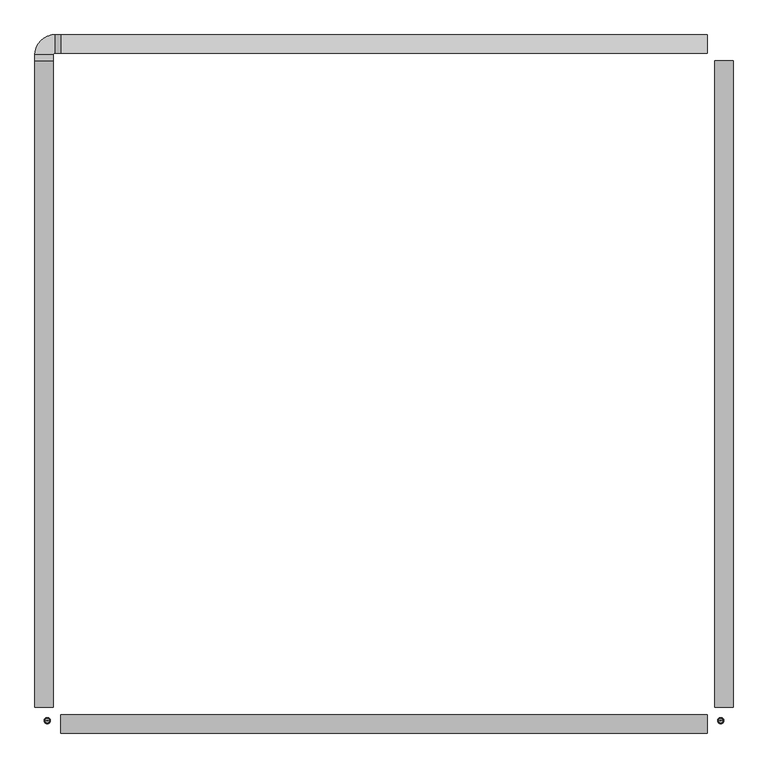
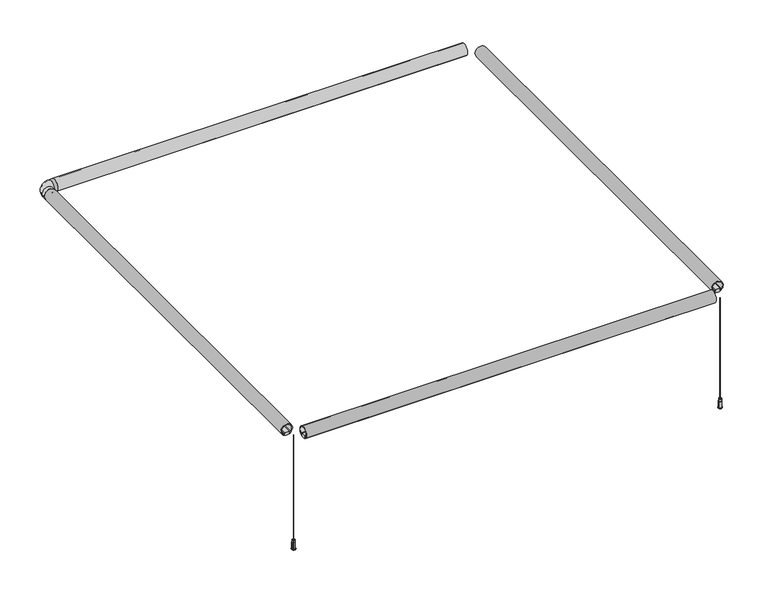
"""IFC4 building model written with IfcOpenShell, lengths in millimetres: light fixture geometry, ARTEMIDE-AoL-StandAlone-SquareRectangular_Suspended : StandALone_Suspended_SquareRectangular-1911x1911mm 14020lm 3000K."""

from ifc_helpers import new_model, si_unit, point, frame, frame_2d, origin, origin_with_axes, place, context, project, spatial, polyline, circle_curve, ellipse_curve, trimmed, segment, composite_curve, outline, extrude, source, transform, mapped, element, save
from ifc_brep_helpers import plane_surface, cylinder_surface, revolved_surface, advanced_brep


def light_fixture_bbf9698c(model_context):
    return source(origin(), model_context, "Body", "SolidModel", [
        advanced_brep(
        [(13.25, 1700.5, 502.9333396), (36.75, 1700.5, 502.9333396), (36.75, 1700.5, 507.259212), (40.304087, 1700.5, 507.259212), (40.304087, 1700.5, 508.785971), (34.5062575, 1700.5, 508.785971), (34.5062575, 1700.5, 514.4273482), (15.4937425, 1700.5, 514.4273482), (15.4937425, 1700.5, 508.785971), (9.695913, 1700.5, 508.785971), (9.695913, 1700.5, 507.259212), (13.25, 1700.5, 507.259212), (70.5, 1757.75, 502.9333396), (70.5, 1757.75, 507.259212), (70.5, 1761.304087, 507.259212), (70.5, 1761.304087, 508.785971), (70.5, 1755.5062575, 508.785971), (70.5, 1755.5062575, 514.4273482), (70.5, 1736.4937425, 514.4273482), (70.5, 1736.4937425, 508.785971), (70.5, 1730.695913, 508.785971), (70.5, 1730.695913, 507.259212), (70.5, 1734.25, 507.259212), (70.5, 1734.25, 502.9333396), (13.25, 1716.0, 502.9333396), (36.75, 1716.0, 502.9333396), (36.75, 1716.0, 507.259212), (55.0, 1734.25, 507.259212), (55.0, 1730.695913, 507.259212), (40.304087, 1716.0, 507.259212), (40.304087, 1716.0, 508.785971), (55.0, 1730.695913, 508.785971), (55.0, 1736.4937425, 508.785971), (34.5062575, 1716.0, 508.785971), (34.5062575, 1716.0, 514.4273482), (55.0, 1736.4937425, 514.4273482), (55.0, 1755.5062575, 514.4273482), (15.4937425, 1716.0, 514.4273482), (15.4937425, 1716.0, 508.785971), (55.0, 1755.5062575, 508.785971), (55.0, 1761.304087, 508.785971), (9.695913, 1716.0, 508.785971), (9.695913, 1716.0, 507.259212), (55.0, 1761.304087, 507.259212), (55.0, 1757.75, 507.259212), (13.25, 1716.0, 507.259212), (55.0, 1734.25, 502.9333396), (55.0, 1757.75, 502.9333396)],
        [
            (0, 1, circle_curve(frame((25.0, 1700.5, 525.0), z_axis=(0.0, -1.0, 0.0), x_axis=(-1.0, 0.0, 0.0)), 25.0)),
            (1, 2),
            (2, 3),
            (3, 4),
            (4, 5),
            (5, 6),
            (6, 7),
            (7, 8),
            (8, 9),
            (9, 10),
            (10, 11),
            (11, 0),
            (12, 13),
            (13, 14),
            (14, 15),
            (15, 16),
            (16, 17),
            (17, 18),
            (18, 19),
            (19, 20),
            (20, 21),
            (21, 22),
            (22, 23),
            (23, 12, circle_curve(frame((70.5, 1746.0, 525.0), z_axis=(1.0, 0.0, 0.0), x_axis=(0.0, 1.0, 0.0)), 25.0)),
            (0, 24),
            (24, 25, circle_curve(frame((25.0, 1716.0, 525.0), z_axis=(0.0, -1.0, 0.0), x_axis=(-1.0, 0.0, 0.0)), 25.0)),
            (25, 1),
            (25, 26),
            (26, 2),
            (26, 27, circle_curve(frame((55.0, 1716.0, 507.259212), z_axis=(0.0, 0.0, -1.0), x_axis=(-1.0, 0.0, 0.0)), 18.25)),
            (27, 22),
            (21, 28),
            (28, 29, circle_curve(frame((55.0, 1716.0, 507.259212), z_axis=(0.0, 0.0, 1.0), x_axis=(-1.0, 0.0, 0.0)), 14.695913)),
            (29, 3),
            (29, 30),
            (30, 4),
            (30, 31, circle_curve(frame((55.0, 1716.0, 508.785971), z_axis=(0.0, 0.0, -1.0), x_axis=(-1.0, 0.0, 0.0)), 14.695913)),
            (31, 20),
            (19, 32),
            (32, 33, circle_curve(frame((55.0, 1716.0, 508.785971), z_axis=(0.0, 0.0, 1.0), x_axis=(-1.0, 0.0, 0.0)), 20.4937425)),
            (33, 5),
            (33, 34),
            (34, 6),
            (34, 35, circle_curve(frame((55.0, 1716.0, 514.4273482), z_axis=(0.0, 0.0, -1.0), x_axis=(-1.0, 0.0, 0.0)), 20.4937425)),
            (35, 18),
            (17, 36),
            (36, 37, circle_curve(frame((55.0, 1716.0, 514.4273482), z_axis=(0.0, 0.0, 1.0), x_axis=(-1.0, 0.0, 0.0)), 39.5062575)),
            (37, 7),
            (37, 38),
            (38, 8),
            (38, 39, circle_curve(frame((55.0, 1716.0, 508.785971), z_axis=(0.0, 0.0, -1.0), x_axis=(-1.0, 0.0, 0.0)), 39.5062575)),
            (39, 16),
            (15, 40),
            (40, 41, circle_curve(frame((55.0, 1716.0, 508.785971), z_axis=(0.0, 0.0, 1.0), x_axis=(-1.0, 0.0, 0.0)), 45.304087)),
            (41, 9),
            (41, 42),
            (42, 10),
            (42, 43, circle_curve(frame((55.0, 1716.0, 507.259212), z_axis=(0.0, 0.0, -1.0), x_axis=(-1.0, 0.0, 0.0)), 45.304087)),
            (43, 14),
            (13, 44),
            (44, 45, circle_curve(frame((55.0, 1716.0, 507.259212), z_axis=(0.0, 0.0, 1.0), x_axis=(-1.0, 0.0, 0.0)), 41.75)),
            (45, 11),
            (45, 24),
            (46, 25, circle_curve(frame((55.0, 1716.0, 502.9333396), z_axis=(0.0, 0.0, 1.0), x_axis=(-1.0, 0.0, 0.0)), 18.25)),
            (24, 47, circle_curve(frame((55.0, 1716.0, 502.9333396), z_axis=(0.0, 0.0, -1.0), x_axis=(-1.0, 0.0, 0.0)), 41.75)),
            (47, 46, circle_curve(frame((55.0, 1746.0, 525.0), z_axis=(-1.0, 0.0, 0.0), x_axis=(0.0, 1.0, 0.0)), 25.0)),
            (46, 27),
            (28, 31),
            (32, 35),
            (36, 39),
            (40, 43),
            (44, 47),
            (47, 12),
            (23, 46),
        ],
        [
            plane_surface(frame((25.0, 1700.5, 500.0), z_axis=(0.0, -1.0, 0.0), x_axis=(0.0, 0.0, 1.0))),
            plane_surface(frame((70.5, 1746.0, 500.0), z_axis=(1.0, 0.0, 0.0), x_axis=(0.0, 0.0, 1.0))),
            cylinder_surface(frame((25.0, 1700.5, 525.0), z_axis=(0.0, -1.0, 0.0), x_axis=(-1.0, 0.0, 0.0)), 25.0),
            plane_surface(frame((36.75, 1700.5, 502.9333396), z_axis=(1.0, 0.0, 0.0), x_axis=(0.0, 1.0, 0.0))),
            plane_surface(frame((36.75, 1700.5, 507.259212), z_axis=(0.0, 0.0, -1.0), x_axis=(0.0, 1.0, 0.0))),
            plane_surface(frame((40.304087, 1700.5, 507.259212), z_axis=(1.0, 0.0, 0.0), x_axis=(0.0, 1.0, 0.0))),
            plane_surface(frame((40.304087, 1700.5, 508.785971), z_axis=(0.0, 0.0, 1.0), x_axis=(0.0, 1.0, 0.0))),
            plane_surface(frame((34.5062575, 1700.5, 508.785971), z_axis=(1.0, 0.0, 0.0), x_axis=(0.0, 1.0, 0.0))),
            plane_surface(frame((34.5062575, 1700.5, 514.4273482), z_axis=(0.0, 0.0, 1.0), x_axis=(0.0, 1.0, 0.0))),
            plane_surface(frame((15.4937425, 1700.5, 514.4273482), z_axis=(-1.0, 0.0, 0.0), x_axis=(0.0, 1.0, 0.0))),
            plane_surface(frame((15.4937425, 1700.5, 508.785971), z_axis=(0.0, 0.0, 1.0), x_axis=(0.0, 1.0, 0.0))),
            plane_surface(frame((9.695913, 1700.5, 508.785971), z_axis=(-1.0, 0.0, 0.0), x_axis=(0.0, 1.0, 0.0))),
            plane_surface(frame((9.695913, 1700.5, 507.259212), z_axis=(0.0, 0.0, -1.0), x_axis=(0.0, 1.0, 0.0))),
            plane_surface(frame((13.25, 1700.5, 507.259212), z_axis=(-1.0, 0.0, 0.0), x_axis=(0.0, 1.0, 0.0))),
            revolved_surface(trimmed(ellipse_curve(frame((25.0, 1716.0, 525.0), z_axis=(0.0, -1.0, 0.0), x_axis=(-1.0, 0.0, 0.0)), 25.0, 25.0), [point((13.25, 1716.0, 502.9333396))], [point((36.75, 1716.0, 502.9333396))], True, "CARTESIAN"), (55.0, 1716.0, 500.0), (0.0, 0.0, -1.0)),
            revolved_surface(polyline([(36.75, 1716.0, 502.9333396), (36.75, 1716.0, 507.259212)]), (55.0, 1716.0, 500.0), (0.0, 0.0, -1.0)),
            revolved_surface(polyline([(40.304087, 1716.0, 507.259212), (40.304087, 1716.0, 508.785971)]), (55.0, 1716.0, 500.0), (0.0, 0.0, -1.0)),
            revolved_surface(polyline([(34.506257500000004, 1716.0, 508.785971), (34.506257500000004, 1716.0, 514.4273482)]), (55.0, 1716.0, 500.0), (0.0, 0.0, -1.0)),
            cylinder_surface(frame((55.0, 1716.0, 500.0), z_axis=(0.0, 0.0, -1.0), x_axis=(-1.0, 0.0, 0.0)), 39.5062575),
            cylinder_surface(frame((55.0, 1716.0, 500.0), z_axis=(0.0, 0.0, -1.0), x_axis=(-1.0, 0.0, 0.0)), 45.304087),
            cylinder_surface(frame((55.0, 1716.0, 500.0), z_axis=(0.0, 0.0, -1.0), x_axis=(-1.0, 0.0, 0.0)), 41.75),
            cylinder_surface(frame((55.0, 1746.0, 525.0), z_axis=(-1.0, 0.0, 0.0), x_axis=(0.0, 1.0, 0.0)), 25.0),
            plane_surface(frame((55.0, 1734.25, 502.9333396), z_axis=(0.0, -1.0, 0.0), x_axis=(1.0, 0.0, 0.0))),
            plane_surface(frame((55.0, 1730.695913, 507.259212), z_axis=(0.0, -1.0, 0.0), x_axis=(1.0, 0.0, 0.0))),
            plane_surface(frame((55.0, 1736.4937425, 508.785971), z_axis=(0.0, -1.0, 0.0), x_axis=(1.0, 0.0, 0.0))),
            plane_surface(frame((55.0, 1755.5062575, 514.4273482), z_axis=(0.0, 1.0, 0.0), x_axis=(1.0, 0.0, 0.0))),
            plane_surface(frame((55.0, 1761.304087, 508.785971), z_axis=(0.0, 1.0, 0.0), x_axis=(1.0, 0.0, 0.0))),
            plane_surface(frame((55.0, 1757.75, 507.259212), z_axis=(0.0, 1.0, 0.0), x_axis=(1.0, 0.0, 0.0))),
        ],
        [
            (0, [[1, 2, 3, 4, 5, 6, 7, 8, 9, 10, 11, 12]]),
            (1, [[13, 14, 15, 16, 17, 18, 19, 20, 21, 22, 23, 24]]),
            (2, [[-1, 25, 26, 27]]),
            (3, [[-2, -27, 28, 29]]),
            (4, [[-3, -29, 30, 31, -22, 32, 33, 34]]),
            (5, [[-4, -34, 35, 36]]),
            (6, [[-5, -36, 37, 38, -20, 39, 40, 41]]),
            (7, [[-6, -41, 42, 43]]),
            (8, [[-7, -43, 44, 45, -18, 46, 47, 48]]),
            (9, [[-8, -48, 49, 50]]),
            (10, [[-9, -50, 51, 52, -16, 53, 54, 55]]),
            (11, [[-10, -55, 56, 57]]),
            (12, [[-11, -57, 58, 59, -14, 60, 61, 62]]),
            (13, [[-12, -62, 63, -25]]),
            (14, [[64, -26, 65, 66]]),
            (15, [[-30, -28, -64, 67]]),
            (16, [[-37, -35, -33, 68]]),
            (17, [[-44, -42, -40, 69]]),
            (18, [[-51, -49, -47, 70]]),
            (19, [[-58, -56, -54, 71]]),
            (20, [[-65, -63, -61, 72]]),
            (21, [[-66, 73, -24, 74]]),
            (22, [[-67, -74, -23, -31]]),
            (23, [[-68, -32, -21, -38]]),
            (24, [[-69, -39, -19, -45]]),
            (25, [[-70, -46, -17, -52]]),
            (26, [[-71, -53, -15, -59]]),
            (27, [[-72, -60, -13, -73]]),
        ],
    ),
        advanced_brep(
        [(36.75, 1700.5, 502.9333396), (13.25, 1700.5, 502.9333396), (13.25, 1700.5, 507.259212), (11.332246, 1700.5, 507.259212), (11.332246, 1700.5, 505.8288843), (9.382246, 1700.5, 507.2440748), (9.382246, 1700.5, 509.244074), (12.332246, 1700.5, 509.244074), (12.332246, 1700.5, 510.744074), (7.7220206, 1700.5, 510.744074), (42.2779794, 1700.5, 510.744074), (37.667754, 1700.5, 510.744074), (37.667754, 1700.5, 509.244074), (40.617754, 1700.5, 509.244074), (40.617754, 1700.5, 507.2440748), (38.667754, 1700.5, 505.8288843), (38.667754, 1700.5, 507.259212), (36.75, 1700.5, 507.259212), (70.5, 1734.25, 502.9333396), (70.5, 1734.25, 507.259212), (70.5, 1732.332246, 507.259212), (70.5, 1732.332246, 505.8288843), (70.5, 1730.382246, 507.2440748), (70.5, 1730.382246, 509.244074), (70.5, 1733.332246, 509.244074), (70.5, 1733.332246, 510.744074), (70.5, 1728.7220206, 510.744074), (70.5, 1763.2779794, 510.744074), (70.5, 1758.667754, 510.744074), (70.5, 1758.667754, 509.244074), (70.5, 1761.617754, 509.244074), (70.5, 1761.617754, 507.2440748), (70.5, 1759.667754, 505.8288843), (70.5, 1759.667754, 507.259212), (70.5, 1757.75, 507.259212), (70.5, 1757.75, 502.9333396), (36.75, 1716.0, 502.9333396), (13.25, 1716.0, 502.9333396), (13.25, 1716.0, 507.259212), (55.0, 1757.75, 507.259212), (55.0, 1759.667754, 507.259212), (11.332246, 1716.0, 507.259212), (11.332246, 1716.0, 505.8288843), (9.382246, 1716.0, 507.2440748), (9.382246, 1716.0, 509.244074), (55.0, 1761.617754, 509.244074), (55.0, 1758.667754, 509.244074), (12.332246, 1716.0, 509.244074), (12.332246, 1716.0, 510.744074), (55.0, 1758.667754, 510.744074), (55.0, 1763.2779794, 510.744074), (7.7220206, 1716.0, 510.744074), (42.2779794, 1716.0, 510.744074), (55.0, 1728.7220206, 510.744074), (55.0, 1733.332246, 510.744074), (37.667754, 1716.0, 510.744074), (37.667754, 1716.0, 509.244074), (55.0, 1733.332246, 509.244074), (55.0, 1730.382246, 509.244074), (40.617754, 1716.0, 509.244074), (40.617754, 1716.0, 507.2440748), (38.667754, 1716.0, 505.8288843), (38.667754, 1716.0, 507.259212), (55.0, 1732.332246, 507.259212), (55.0, 1734.25, 507.259212), (36.75, 1716.0, 507.259212), (55.0, 1757.75, 502.9333396), (55.0, 1734.25, 502.9333396), (55.0, 1759.667754, 505.8288843), (55.0, 1761.617754, 507.2440748), (55.0, 1730.382246, 507.2440748), (55.0, 1732.332246, 505.8288843)],
        [
            (0, 1, circle_curve(frame((25.0, 1700.5, 525.0), z_axis=(0.0, -1.0, 0.0), x_axis=(-1.0, 0.0, 0.0)), 25.0)),
            (1, 2),
            (2, 3),
            (3, 4),
            (4, 5),
            (5, 6),
            (6, 7),
            (7, 8),
            (8, 9),
            (9, 10, circle_curve(frame((25.0, 1700.5, 525.0), z_axis=(0.0, 1.0, 0.0), x_axis=(-1.0, 0.0, 0.0)), 22.4)),
            (10, 11),
            (11, 12),
            (12, 13),
            (13, 14),
            (14, 15),
            (15, 16),
            (16, 17),
            (17, 0),
            (18, 19),
            (19, 20),
            (20, 21),
            (21, 22),
            (22, 23),
            (23, 24),
            (24, 25),
            (25, 26),
            (26, 27, circle_curve(frame((70.5, 1746.0, 525.0), z_axis=(-1.0, 0.0, 0.0), x_axis=(0.0, 1.0, 0.0)), 22.4)),
            (27, 28),
            (28, 29),
            (29, 30),
            (30, 31),
            (31, 32),
            (32, 33),
            (33, 34),
            (34, 35),
            (35, 18, circle_curve(frame((70.5, 1746.0, 525.0), z_axis=(1.0, 0.0, 0.0), x_axis=(0.0, 1.0, 0.0)), 25.0)),
            (0, 36),
            (36, 37, circle_curve(frame((25.0, 1716.0, 525.0), z_axis=(0.0, -1.0, 0.0), x_axis=(-1.0, 0.0, 0.0)), 25.0)),
            (37, 1),
            (37, 38),
            (38, 2),
            (38, 39, circle_curve(frame((55.0, 1716.0, 507.259212), z_axis=(0.0, 0.0, -1.0), x_axis=(-1.0, 0.0, 0.0)), 41.75)),
            (39, 34),
            (33, 40),
            (40, 41, circle_curve(frame((55.0, 1716.0, 507.259212), z_axis=(0.0, 0.0, 1.0), x_axis=(-1.0, 0.0, 0.0)), 43.667754)),
            (41, 3),
            (41, 42),
            (42, 4),
            (42, 43),
            (43, 5),
            (43, 44),
            (44, 6),
            (44, 45, circle_curve(frame((55.0, 1716.0, 509.244074), z_axis=(0.0, 0.0, -1.0), x_axis=(-1.0, 0.0, 0.0)), 45.617754)),
            (45, 30),
            (29, 46),
            (46, 47, circle_curve(frame((55.0, 1716.0, 509.244074), z_axis=(0.0, 0.0, 1.0), x_axis=(-1.0, 0.0, 0.0)), 42.667754)),
            (47, 7),
            (47, 48),
            (48, 8),
            (48, 49, circle_curve(frame((55.0, 1716.0, 510.744074), z_axis=(0.0, 0.0, -1.0), x_axis=(-1.0, 0.0, 0.0)), 42.667754)),
            (49, 28),
            (27, 50),
            (50, 51, circle_curve(frame((55.0, 1716.0, 510.744074), z_axis=(0.0, 0.0, 1.0), x_axis=(-1.0, 0.0, 0.0)), 47.2779794)),
            (51, 9),
            (51, 52, circle_curve(frame((25.0, 1716.0, 525.0), z_axis=(0.0, 1.0, 0.0), x_axis=(-1.0, 0.0, 0.0)), 22.4)),
            (52, 10),
            (52, 53, circle_curve(frame((55.0, 1716.0, 510.744074), z_axis=(0.0, 0.0, -1.0), x_axis=(-1.0, 0.0, 0.0)), 12.7220206)),
            (53, 26),
            (25, 54),
            (54, 55, circle_curve(frame((55.0, 1716.0, 510.744074), z_axis=(0.0, 0.0, 1.0), x_axis=(-1.0, 0.0, 0.0)), 17.332246)),
            (55, 11),
            (55, 56),
            (56, 12),
            (56, 57, circle_curve(frame((55.0, 1716.0, 509.244074), z_axis=(0.0, 0.0, -1.0), x_axis=(-1.0, 0.0, 0.0)), 17.332246)),
            (57, 24),
            (23, 58),
            (58, 59, circle_curve(frame((55.0, 1716.0, 509.244074), z_axis=(0.0, 0.0, 1.0), x_axis=(-1.0, 0.0, 0.0)), 14.382246)),
            (59, 13),
            (59, 60),
            (60, 14),
            (60, 61),
            (61, 15),
            (61, 62),
            (62, 16),
            (62, 63, circle_curve(frame((55.0, 1716.0, 507.259212), z_axis=(0.0, 0.0, -1.0), x_axis=(-1.0, 0.0, 0.0)), 16.332246)),
            (63, 20),
            (19, 64),
            (64, 65, circle_curve(frame((55.0, 1716.0, 507.259212), z_axis=(0.0, 0.0, 1.0), x_axis=(-1.0, 0.0, 0.0)), 18.25)),
            (65, 17),
            (65, 36),
            (66, 37, circle_curve(frame((55.0, 1716.0, 502.9333396), z_axis=(0.0, 0.0, 1.0), x_axis=(-1.0, 0.0, 0.0)), 41.75)),
            (36, 67, circle_curve(frame((55.0, 1716.0, 502.9333396), z_axis=(0.0, 0.0, -1.0), x_axis=(-1.0, 0.0, 0.0)), 18.25)),
            (67, 66, circle_curve(frame((55.0, 1746.0, 525.0), z_axis=(-1.0, 0.0, 0.0), x_axis=(0.0, 1.0, 0.0)), 25.0)),
            (66, 39),
            (68, 42, circle_curve(frame((55.0, 1716.0, 505.8288843), z_axis=(0.0, 0.0, 1.0), x_axis=(-1.0, 0.0, 0.0)), 43.667754)),
            (40, 68),
            (69, 43, circle_curve(frame((55.0, 1716.0, 507.2440748), z_axis=(0.0, 0.0, 1.0), x_axis=(-1.0, 0.0, 0.0)), 45.617754)),
            (68, 69),
            (69, 45),
            (46, 49),
            (50, 53, circle_curve(frame((55.0, 1746.0, 525.0), z_axis=(1.0, 0.0, 0.0), x_axis=(0.0, 1.0, 0.0)), 22.4)),
            (54, 57),
            (70, 60, circle_curve(frame((55.0, 1716.0, 507.2440748), z_axis=(0.0, 0.0, 1.0), x_axis=(-1.0, 0.0, 0.0)), 14.382246)),
            (58, 70),
            (71, 61, circle_curve(frame((55.0, 1716.0, 505.8288843), z_axis=(0.0, 0.0, 1.0), x_axis=(-1.0, 0.0, 0.0)), 16.332246)),
            (70, 71),
            (71, 63),
            (64, 67),
            (67, 18),
            (35, 66),
            (32, 68),
            (31, 69),
            (22, 70),
            (21, 71),
        ],
        [
            plane_surface(frame((25.0, 1700.5, 500.0), z_axis=(0.0, -1.0, 0.0), x_axis=(0.0, 0.0, 1.0))),
            plane_surface(frame((70.5, 1746.0, 500.0), z_axis=(1.0, 0.0, 0.0), x_axis=(0.0, 0.0, 1.0))),
            cylinder_surface(frame((25.0, 1700.5, 525.0), z_axis=(0.0, -1.0, 0.0), x_axis=(-1.0, 0.0, 0.0)), 25.0),
            plane_surface(frame((13.25, 1700.5, 502.9333396), z_axis=(1.0, 0.0, 0.0), x_axis=(0.0, 1.0, 0.0))),
            plane_surface(frame((13.25, 1700.5, 507.259212), z_axis=(0.0, 0.0, 1.0), x_axis=(0.0, 1.0, 0.0))),
            plane_surface(frame((11.332246, 1700.5, 507.259212), z_axis=(-1.0, 0.0, 0.0), x_axis=(0.0, 1.0, 0.0))),
            plane_surface(frame((11.332246, 1700.5, 505.8288843), z_axis=(0.587359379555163, 0.0, 0.8093262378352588), x_axis=(0.0, 1.0, 0.0))),
            plane_surface(frame((9.382246, 1700.5, 507.2440748), z_axis=(1.0, 0.0, 0.0), x_axis=(0.0, 1.0, 0.0))),
            plane_surface(frame((9.382246, 1700.5, 509.244074), z_axis=(0.0, 0.0, -1.0), x_axis=(0.0, 1.0, 0.0))),
            plane_surface(frame((12.332246, 1700.5, 509.244074), z_axis=(1.0, 0.0, 0.0), x_axis=(0.0, 1.0, 0.0))),
            plane_surface(frame((12.332246, 1700.5, 510.744074), z_axis=(0.0, 0.0, 1.0), x_axis=(0.0, 1.0, 0.0))),
            revolved_surface(polyline([(2.6000000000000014, 1716.0, 525.0), (2.6000000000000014, 1700.5, 525.0)]), (25.0, 1700.5, 525.0), (0.0, 1.0, 0.0)),
            plane_surface(frame((42.2779794, 1700.5, 510.744074), z_axis=(0.0, 0.0, 1.0), x_axis=(0.0, 1.0, 0.0))),
            plane_surface(frame((37.667754, 1700.5, 510.744074), z_axis=(-1.0, 0.0, 0.0), x_axis=(0.0, 1.0, 0.0))),
            plane_surface(frame((37.667754, 1700.5, 509.244074), z_axis=(0.0, 0.0, -1.0), x_axis=(0.0, 1.0, 0.0))),
            plane_surface(frame((40.617754, 1700.5, 509.244074), z_axis=(-1.0, 0.0, 0.0), x_axis=(0.0, 1.0, 0.0))),
            plane_surface(frame((40.617754, 1700.5, 507.2440748), z_axis=(-0.5873593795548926, 0.0, 0.8093262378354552), x_axis=(0.0, 1.0, 0.0))),
            plane_surface(frame((38.667754, 1700.5, 505.8288843), z_axis=(1.0, 0.0, 0.0), x_axis=(0.0, 1.0, 0.0))),
            plane_surface(frame((38.667754, 1700.5, 507.259212), z_axis=(0.0, 0.0, 1.0), x_axis=(0.0, 1.0, 0.0))),
            plane_surface(frame((36.75, 1700.5, 507.259212), z_axis=(-1.0, 0.0, 0.0), x_axis=(0.0, 1.0, 0.0))),
            revolved_surface(trimmed(ellipse_curve(frame((25.0, 1716.0, 525.0), z_axis=(0.0, -1.0, 0.0), x_axis=(-1.0, 0.0, 0.0)), 25.0, 25.0), [point((36.75, 1716.0, 502.9333396))], [point((13.25, 1716.0, 502.9333396))], True, "CARTESIAN"), (55.0, 1716.0, 500.0), (0.0, 0.0, -1.0)),
            revolved_surface(polyline([(13.25, 1716.0, 502.9333396), (13.25, 1716.0, 507.259212)]), (55.0, 1716.0, 500.0), (0.0, 0.0, -1.0)),
            cylinder_surface(frame((55.0, 1716.0, 500.0), z_axis=(0.0, 0.0, -1.0), x_axis=(-1.0, 0.0, 0.0)), 43.667754),
            revolved_surface(polyline([(11.332246, 1716.0, 505.8288843), (9.382246, 1716.0, 507.2440748)]), (55.0, 1716.0, 500.0), (0.0, 0.0, -1.0)),
            revolved_surface(polyline([(9.382246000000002, 1716.0, 507.2440748), (9.382246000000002, 1716.0, 509.244074)]), (55.0, 1716.0, 500.0), (0.0, 0.0, -1.0)),
            revolved_surface(polyline([(12.332245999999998, 1716.0, 509.244074), (12.332245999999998, 1716.0, 510.744074)]), (55.0, 1716.0, 500.0), (0.0, 0.0, -1.0)),
            revolved_surface(trimmed(ellipse_curve(frame((25.0, 1716.0, 525.0), z_axis=(0.0, 1.0, 0.0), x_axis=(-1.0, 0.0, 0.0)), 22.4, 22.4), [point((7.7220206, 1716.0, 510.744074))], [point((42.2779794, 1716.0, 510.744074))], True, "CARTESIAN"), (55.0, 1716.0, 500.0), (0.0, 0.0, -1.0)),
            cylinder_surface(frame((55.0, 1716.0, 500.0), z_axis=(0.0, 0.0, -1.0), x_axis=(-1.0, 0.0, 0.0)), 17.332246),
            cylinder_surface(frame((55.0, 1716.0, 500.0), z_axis=(0.0, 0.0, -1.0), x_axis=(-1.0, 0.0, 0.0)), 14.382246),
            revolved_surface(polyline([(40.617754, 1716.0, 507.2440748), (38.667754, 1716.0, 505.8288843)]), (55.0, 1716.0, 500.0), (0.0, 0.0, -1.0)),
            revolved_surface(polyline([(38.667754, 1716.0, 505.8288843), (38.667754, 1716.0, 507.259212)]), (55.0, 1716.0, 500.0), (0.0, 0.0, -1.0)),
            cylinder_surface(frame((55.0, 1716.0, 500.0), z_axis=(0.0, 0.0, -1.0), x_axis=(-1.0, 0.0, 0.0)), 18.25),
            cylinder_surface(frame((55.0, 1746.0, 525.0), z_axis=(-1.0, 0.0, 0.0), x_axis=(0.0, 1.0, 0.0)), 25.0),
            plane_surface(frame((55.0, 1757.75, 502.9333396), z_axis=(0.0, -1.0, 0.0), x_axis=(1.0, 0.0, 0.0))),
            plane_surface(frame((55.0, 1759.667754, 507.259212), z_axis=(0.0, 1.0, 0.0), x_axis=(1.0, 0.0, 0.0))),
            plane_surface(frame((55.0, 1759.667754, 505.8288843), z_axis=(0.0, -0.5873593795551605, 0.8093262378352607), x_axis=(1.0, 0.0, 0.0))),
            plane_surface(frame((55.0, 1761.617754, 507.2440748), z_axis=(0.0, -1.0, 0.0), x_axis=(1.0, 0.0, 0.0))),
            plane_surface(frame((55.0, 1758.667754, 509.244074), z_axis=(0.0, -1.0, 0.0), x_axis=(1.0, 0.0, 0.0))),
            revolved_surface(polyline([(70.5, 1768.4, 525.0), (55.0, 1768.4, 525.0)]), (55.0, 1746.0, 525.0), (1.0, 0.0, 0.0)),
            plane_surface(frame((55.0, 1733.332246, 510.744074), z_axis=(0.0, 1.0, 0.0), x_axis=(1.0, 0.0, 0.0))),
            plane_surface(frame((55.0, 1730.382246, 509.244074), z_axis=(0.0, 1.0, 0.0), x_axis=(1.0, 0.0, 0.0))),
            plane_surface(frame((55.0, 1730.382246, 507.2440748), z_axis=(0.0, 0.5873593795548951, 0.8093262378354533), x_axis=(1.0, 0.0, 0.0))),
            plane_surface(frame((55.0, 1732.332246, 505.8288843), z_axis=(0.0, -1.0, 0.0), x_axis=(1.0, 0.0, 0.0))),
            plane_surface(frame((55.0, 1734.25, 507.259212), z_axis=(0.0, 1.0, 0.0), x_axis=(1.0, 0.0, 0.0))),
        ],
        [
            (0, [[1, 2, 3, 4, 5, 6, 7, 8, 9, 10, 11, 12, 13, 14, 15, 16, 17, 18]]),
            (1, [[19, 20, 21, 22, 23, 24, 25, 26, 27, 28, 29, 30, 31, 32, 33, 34, 35, 36]]),
            (2, [[-1, 37, 38, 39]]),
            (3, [[-2, -39, 40, 41]]),
            (4, [[-3, -41, 42, 43, -34, 44, 45, 46]]),
            (5, [[-4, -46, 47, 48]]),
            (6, [[-5, -48, 49, 50]]),
            (7, [[-6, -50, 51, 52]]),
            (8, [[-7, -52, 53, 54, -30, 55, 56, 57]]),
            (9, [[-8, -57, 58, 59]]),
            (10, [[-9, -59, 60, 61, -28, 62, 63, 64]]),
            (11, [[-10, -64, 65, 66]]),
            (12, [[-11, -66, 67, 68, -26, 69, 70, 71]]),
            (13, [[-12, -71, 72, 73]]),
            (14, [[-13, -73, 74, 75, -24, 76, 77, 78]]),
            (15, [[-14, -78, 79, 80]]),
            (16, [[-15, -80, 81, 82]]),
            (17, [[-16, -82, 83, 84]]),
            (18, [[-17, -84, 85, 86, -20, 87, 88, 89]]),
            (19, [[-18, -89, 90, -37]]),
            (20, [[91, -38, 92, 93]]),
            (21, [[-42, -40, -91, 94]]),
            (22, [[95, -47, -45, 96]]),
            (23, [[97, -49, -95, 98]]),
            (24, [[-53, -51, -97, 99]]),
            (25, [[-60, -58, -56, 100]]),
            (26, [[-67, -65, -63, 101]]),
            (27, [[-74, -72, -70, 102]]),
            (28, [[103, -79, -77, 104]]),
            (29, [[105, -81, -103, 106]]),
            (30, [[-85, -83, -105, 107]]),
            (31, [[-92, -90, -88, 108]]),
            (32, [[-93, 109, -36, 110]]),
            (33, [[-94, -110, -35, -43]]),
            (34, [[-96, -44, -33, 111]]),
            (35, [[-98, -111, -32, 112]]),
            (36, [[-99, -112, -31, -54]]),
            (37, [[-100, -55, -29, -61]]),
            (38, [[-101, -62, -27, -68]]),
            (39, [[-102, -69, -25, -75]]),
            (40, [[-104, -76, -23, 113]]),
            (41, [[-106, -113, -22, 114]]),
            (42, [[-107, -114, -21, -86]]),
            (43, [[-108, -87, -19, -109]]),
        ],
    ),
        extrude(outline(composite_curve([segment(polyline([(1757.75, 502.9333396), (1757.75, 507.259212), (1759.667754, 507.259212), (1759.667754, 505.8288843), (1761.617754, 507.2440748), (1761.617754, 509.244074), (1758.667754, 509.244074), (1758.667754, 510.744074), (1763.2779794, 510.744074)]), True, "CONTINUOUS"), segment(trimmed(circle_curve(frame_2d((1746.0, 525.0)), 22.4), [point((1763.2779794, 510.744074))], [point((1728.7220206, 510.744074))], True, "CARTESIAN"), True, "CONTINUOUS"), segment(polyline([(1728.7220206, 510.744074), (1733.332246, 510.744074), (1733.332246, 509.244074), (1730.382246, 509.244074), (1730.382246, 507.2440748), (1732.332246, 505.8288843), (1732.332246, 507.259212), (1734.25, 507.259212), (1734.25, 502.9333396)]), True, "CONTINUOUS"), segment(trimmed(circle_curve(frame_2d((1746.0, 525.0)), 25.0), [point((1734.25, 502.9333396))], [point((1757.75, 502.9333396))], False, "CARTESIAN"), True, "CONTINUOUS")], self_intersect=False)), frame((70.5, 0.0, 0.0), z_axis=(1.0, 0.0, 0.0), x_axis=(0.0, 1.0, 0.0)), (0.0, 0.0, 1.0), 1770.0032014),
        extrude(outline(composite_curve([segment(polyline([(1734.25, 502.9333396), (1734.25, 507.259212), (1730.695913, 507.259212), (1730.695913, 508.785971), (1736.4937425, 508.785971), (1736.4937425, 514.4273482), (1755.5062575, 514.4273482), (1755.5062575, 508.785971), (1761.304087, 508.785971), (1761.304087, 507.259212), (1757.75, 507.259212), (1757.75, 502.9333396)]), True, "CONTINUOUS"), segment(trimmed(circle_curve(frame_2d((1746.0, 525.0)), 25.0), [point((1757.75, 502.9333396))], [point((1734.25, 502.9333396))], False, "CARTESIAN"), True, "CONTINUOUS")], self_intersect=False)), frame((70.5, 0.0, 0.0), z_axis=(1.0, 0.0, 0.0), x_axis=(0.0, 1.0, 0.0)), (0.0, 0.0, 1.0), 1770.0032014),
        extrude(outline(composite_curve([segment(polyline([(502.9333396, 13.25), (507.259212, 13.25), (507.259212, 11.332246), (505.8288843, 11.332246), (507.2440748, 9.382246), (509.244074, 9.382246), (509.244074, 12.332246), (510.744074, 12.332246), (510.744074, 7.7220206)]), True, "CONTINUOUS"), segment(trimmed(circle_curve(frame_2d((525.0, 25.0)), 22.4), [point((510.744074, 7.7220206))], [point((510.744074, 42.2779794))], True, "CARTESIAN"), True, "CONTINUOUS"), segment(polyline([(510.744074, 42.2779794), (510.744074, 37.667754), (509.244074, 37.667754), (509.244074, 40.617754), (507.2440748, 40.617754), (505.8288843, 38.667754), (507.259212, 38.667754), (507.259212, 36.75), (502.9333396, 36.75)]), True, "CONTINUOUS"), segment(trimmed(circle_curve(frame_2d((525.0, 25.0)), 25.0), [point((502.9333396, 36.75))], [point((502.9333396, 13.25))], False, "CARTESIAN"), True, "CONTINUOUS")], self_intersect=False)), frame((0.0, -69.5, 0.0), z_axis=(0.0, 1.0, 0.0), x_axis=(0.0, 0.0, 1.0)), (0.0, 0.0, 1.0), 1770.0),
        extrude(outline(composite_curve([segment(polyline([(502.9333396, 36.75), (507.259212, 36.75), (507.259212, 40.304087), (508.785971, 40.304087), (508.785971, 34.5062575), (514.4273482, 34.5062575), (514.4273482, 15.4937425), (508.785971, 15.4937425), (508.785971, 9.695913), (507.259212, 9.695913), (507.259212, 13.25), (502.9333396, 13.25)]), True, "CONTINUOUS"), segment(trimmed(circle_curve(frame_2d((525.0, 25.0)), 25.0), [point((502.9333396, 13.25))], [point((502.9333396, 36.75))], False, "CARTESIAN"), True, "CONTINUOUS")], self_intersect=False)), frame((0.0, -69.5, 0.0), z_axis=(0.0, 1.0, 0.0), x_axis=(0.0, 0.0, 1.0)), (0.0, 0.0, 1.0), 1770.0),
        extrude(outline(composite_curve([segment(polyline([(502.9333396, 1874.2532014), (507.259212, 1874.2532014), (507.259212, 1872.3354474), (505.8288843, 1872.3354474), (507.2440748, 1870.3854474), (509.244074, 1870.3854474), (509.244074, 1873.3354474), (510.744074, 1873.3354474), (510.744074, 1868.725222)]), True, "CONTINUOUS"), segment(trimmed(circle_curve(frame_2d((525.0, 1886.0032014)), 22.4), [point((510.744074, 1868.725222))], [point((510.744074, 1903.2811808))], True, "CARTESIAN"), True, "CONTINUOUS"), segment(polyline([(510.744074, 1903.2811808), (510.744074, 1898.6709554), (509.244074, 1898.6709554), (509.244074, 1901.6209554), (507.2440748, 1901.6209554), (505.8288843, 1899.6709554), (507.259212, 1899.6709554), (507.259212, 1897.7532014), (502.9333396, 1897.7532014)]), True, "CONTINUOUS"), segment(trimmed(circle_curve(frame_2d((525.0, 1886.0032014)), 25.0), [point((502.9333396, 1897.7532014))], [point((502.9333396, 1874.2532014))], False, "CARTESIAN"), True, "CONTINUOUS")], self_intersect=False)), frame((0.0, -69.5, 0.0), z_axis=(0.0, 1.0, 0.0), x_axis=(0.0, 0.0, 1.0)), (0.0, 0.0, 1.0), 1770.0),
        extrude(outline(composite_curve([segment(polyline([(502.9333396, 1897.7532014), (507.259212, 1897.7532014), (507.259212, 1901.3072884), (508.785971, 1901.3072884), (508.785971, 1895.5094589), (514.4273482, 1895.5094589), (514.4273482, 1876.4969439), (508.785971, 1876.4969439), (508.785971, 1870.6991144), (507.259212, 1870.6991144), (507.259212, 1874.2532014), (502.9333396, 1874.2532014)]), True, "CONTINUOUS"), segment(trimmed(circle_curve(frame_2d((525.0, 1886.0032014)), 25.0), [point((502.9333396, 1874.2532014))], [point((502.9333396, 1897.7532014))], False, "CARTESIAN"), True, "CONTINUOUS")], self_intersect=False)), frame((0.0, -69.5, 0.0), z_axis=(0.0, 1.0, 0.0), x_axis=(0.0, 0.0, 1.0)), (0.0, 0.0, 1.0), 1770.0),
        advanced_brep(
        [(34.8, -106.0, 41.0209548), (32.8, -106.0, 41.0209548), (28.3097745, -106.0, 41.0209548), (39.2902255, -106.0, 41.0209548), (34.8, -106.0, 0.0), (32.8, -106.0, 0.0), (42.3523699, -106.0, 0.0), (25.2476301, -106.0, 0.0), (42.3523699, -106.0, 2.0209548), (25.2476301, -106.0, 2.0209548), (40.3523699, -106.0, 2.0209548), (27.2476301, -106.0, 2.0209548), (40.3523699, -106.0, 30.9721976), (27.2476301, -106.0, 30.9721976), (39.2902255, -106.0, 30.9721976), (28.3097745, -106.0, 30.9721976)],
        [
            (0, 1, circle_curve(frame((33.8, -106.0, 41.0209548), z_axis=(0.0, 0.0, -1.0), x_axis=(-1.0, 0.0, 0.0)), 1.0)),
            (1, 2),
            (2, 3, circle_curve(frame((33.8, -106.0, 41.0209548), z_axis=(0.0, 0.0, 1.0), x_axis=(-1.0, 0.0, 0.0)), 5.4902255)),
            (3, 0),
            (1, 0, circle_curve(frame((33.8, -106.0, 41.0209548), z_axis=(0.0, 0.0, -1.0), x_axis=(-1.0, 0.0, 0.0)), 1.0)),
            (3, 2, circle_curve(frame((33.8, -106.0, 41.0209548), z_axis=(0.0, 0.0, 1.0), x_axis=(-1.0, 0.0, 0.0)), 5.4902255)),
            (4, 5, circle_curve(frame((33.8, -106.0, 0.0), z_axis=(0.0, 0.0, -1.0), x_axis=(-1.0, 0.0, 0.0)), 1.0)),
            (5, 1),
            (0, 4),
            (5, 4, circle_curve(frame((33.8, -106.0, 0.0), z_axis=(0.0, 0.0, -1.0), x_axis=(-1.0, 0.0, 0.0)), 1.0)),
            (6, 7, circle_curve(frame((33.8, -106.0, 0.0), z_axis=(0.0, 0.0, -1.0), x_axis=(-1.0, 0.0, 0.0)), 8.5523699)),
            (7, 5),
            (4, 6),
            (7, 6, circle_curve(frame((33.8, -106.0, 0.0), z_axis=(0.0, 0.0, -1.0), x_axis=(-1.0, 0.0, 0.0)), 8.5523699)),
            (8, 9, circle_curve(frame((33.8, -106.0, 2.0209548), z_axis=(0.0, 0.0, -1.0), x_axis=(-1.0, 0.0, 0.0)), 8.5523699)),
            (9, 7),
            (6, 8),
            (9, 8, circle_curve(frame((33.8, -106.0, 2.0209548), z_axis=(0.0, 0.0, -1.0), x_axis=(-1.0, 0.0, 0.0)), 8.5523699)),
            (10, 11, circle_curve(frame((33.8, -106.0, 2.0209548), z_axis=(0.0, 0.0, -1.0), x_axis=(-1.0, 0.0, 0.0)), 6.5523699)),
            (11, 9),
            (8, 10),
            (11, 10, circle_curve(frame((33.8, -106.0, 2.0209548), z_axis=(0.0, 0.0, -1.0), x_axis=(-1.0, 0.0, 0.0)), 6.5523699)),
            (12, 13, circle_curve(frame((33.8, -106.0, 30.9721976), z_axis=(0.0, 0.0, -1.0), x_axis=(-1.0, 0.0, 0.0)), 6.5523699)),
            (13, 11),
            (10, 12),
            (13, 12, circle_curve(frame((33.8, -106.0, 30.9721976), z_axis=(0.0, 0.0, -1.0), x_axis=(-1.0, 0.0, 0.0)), 6.5523699)),
            (14, 15, circle_curve(frame((33.8, -106.0, 30.9721976), z_axis=(0.0, 0.0, -1.0), x_axis=(-1.0, 0.0, 0.0)), 5.4902255)),
            (15, 13),
            (12, 14),
            (15, 14, circle_curve(frame((33.8, -106.0, 30.9721976), z_axis=(0.0, 0.0, -1.0), x_axis=(-1.0, 0.0, 0.0)), 5.4902255)),
            (2, 15),
            (14, 3),
        ],
        [
            plane_surface(frame((33.8, -106.0, 41.0209548), z_axis=(0.0, 0.0, 1.0), x_axis=(-1.0, 0.0, 0.0))),
            revolved_surface(polyline([(32.8, -106.0, 41.02095480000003), (32.8, -106.0, 0.0)]), (33.8, -106.0, 391.16642), (0.0, 0.0, 1.0)),
            plane_surface(frame((33.8, -106.0, 0.0), z_axis=(0.0, 0.0, -1.0), x_axis=(-1.0, 0.0, 0.0))),
            cylinder_surface(frame((33.8, -106.0, 391.16642), z_axis=(0.0, 0.0, 1.0), x_axis=(-1.0, 0.0, 0.0)), 8.5523699),
            plane_surface(frame((33.8, -106.0, 2.0209548), z_axis=(0.0, 0.0, 1.0), x_axis=(-1.0, 0.0, 0.0))),
            cylinder_surface(frame((33.8, -106.0, 391.16642), z_axis=(0.0, 0.0, 1.0), x_axis=(-1.0, 0.0, 0.0)), 6.5523699),
            plane_surface(frame((33.8, -106.0, 30.9721976), z_axis=(0.0, 0.0, 1.0), x_axis=(-1.0, 0.0, 0.0))),
            cylinder_surface(frame((33.8, -106.0, 391.16642), z_axis=(0.0, 0.0, 1.0), x_axis=(-1.0, 0.0, 0.0)), 5.4902255),
        ],
        [
            (0, [[1, 2, 3, 4]]),
            (0, [[5, -4, 6, -2]]),
            (1, [[7, 8, -1, 9]]),
            (1, [[10, -9, -5, -8]]),
            (2, [[11, 12, -7, 13]]),
            (2, [[14, -13, -10, -12]]),
            (3, [[15, 16, -11, 17]]),
            (3, [[18, -17, -14, -16]]),
            (4, [[19, 20, -15, 21]]),
            (4, [[22, -21, -18, -20]]),
            (5, [[23, 24, -19, 25]]),
            (5, [[26, -25, -22, -24]]),
            (6, [[27, 28, -23, 29]]),
            (6, [[30, -29, -26, -28]]),
            (7, [[-3, 31, -27, 32]]),
            (7, [[-6, -32, -30, -31]]),
        ],
    ),
        extrude(outline(composite_curve([segment(trimmed(circle_curve(frame_2d((33.8, -106.0)), 0.8), [point((33.0, -106.0))], [point((34.6, -106.0))], False, "CARTESIAN"), True, "CONTINUOUS"), segment(trimmed(circle_curve(frame_2d((33.8, -106.0)), 0.8), [point((34.6, -106.0))], [point((33.0, -106.0))], False, "CARTESIAN"), True, "CONTINUOUS")], self_intersect=False)), origin_with_axes(), (0.0, 0.0, 1.0), 519.5144391),
        advanced_brep(
        [(1878.0, -106.0, 41.0209548), (1876.0, -106.0, 41.0209548), (1871.5097745, -106.0, 41.0209548), (1882.4902255, -106.0, 41.0209548), (1878.0, -106.0, 0.0), (1876.0, -106.0, 0.0), (1885.5523699, -106.0, 0.0), (1868.4476301, -106.0, 0.0), (1885.5523699, -106.0, 2.0209548), (1868.4476301, -106.0, 2.0209548), (1883.5523699, -106.0, 2.0209548), (1870.4476301, -106.0, 2.0209548), (1883.5523699, -106.0, 30.9721976), (1870.4476301, -106.0, 30.9721976), (1882.4902255, -106.0, 30.9721976), (1871.5097745, -106.0, 30.9721976)],
        [
            (0, 1, circle_curve(frame((1877.0, -106.0, 41.0209548), z_axis=(0.0, 0.0, -1.0), x_axis=(-1.0, 0.0, 0.0)), 1.0)),
            (1, 2),
            (2, 3, circle_curve(frame((1877.0, -106.0, 41.0209548), z_axis=(0.0, 0.0, 1.0), x_axis=(-1.0, 0.0, 0.0)), 5.4902255)),
            (3, 0),
            (1, 0, circle_curve(frame((1877.0, -106.0, 41.0209548), z_axis=(0.0, 0.0, -1.0), x_axis=(-1.0, 0.0, 0.0)), 1.0)),
            (3, 2, circle_curve(frame((1877.0, -106.0, 41.0209548), z_axis=(0.0, 0.0, 1.0), x_axis=(-1.0, 0.0, 0.0)), 5.4902255)),
            (4, 5, circle_curve(frame((1877.0, -106.0, 0.0), z_axis=(0.0, 0.0, -1.0), x_axis=(-1.0, 0.0, 0.0)), 1.0)),
            (5, 1),
            (0, 4),
            (5, 4, circle_curve(frame((1877.0, -106.0, 0.0), z_axis=(0.0, 0.0, -1.0), x_axis=(-1.0, 0.0, 0.0)), 1.0)),
            (6, 7, circle_curve(frame((1877.0, -106.0, 0.0), z_axis=(0.0, 0.0, -1.0), x_axis=(-1.0, 0.0, 0.0)), 8.5523699)),
            (7, 5),
            (4, 6),
            (7, 6, circle_curve(frame((1877.0, -106.0, 0.0), z_axis=(0.0, 0.0, -1.0), x_axis=(-1.0, 0.0, 0.0)), 8.5523699)),
            (8, 9, circle_curve(frame((1877.0, -106.0, 2.0209548), z_axis=(0.0, 0.0, -1.0), x_axis=(-1.0, 0.0, 0.0)), 8.5523699)),
            (9, 7),
            (6, 8),
            (9, 8, circle_curve(frame((1877.0, -106.0, 2.0209548), z_axis=(0.0, 0.0, -1.0), x_axis=(-1.0, 0.0, 0.0)), 8.5523699)),
            (10, 11, circle_curve(frame((1877.0, -106.0, 2.0209548), z_axis=(0.0, 0.0, -1.0), x_axis=(-1.0, 0.0, 0.0)), 6.5523699)),
            (11, 9),
            (8, 10),
            (11, 10, circle_curve(frame((1877.0, -106.0, 2.0209548), z_axis=(0.0, 0.0, -1.0), x_axis=(-1.0, 0.0, 0.0)), 6.5523699)),
            (12, 13, circle_curve(frame((1877.0, -106.0, 30.9721976), z_axis=(0.0, 0.0, -1.0), x_axis=(-1.0, 0.0, 0.0)), 6.5523699)),
            (13, 11),
            (10, 12),
            (13, 12, circle_curve(frame((1877.0, -106.0, 30.9721976), z_axis=(0.0, 0.0, -1.0), x_axis=(-1.0, 0.0, 0.0)), 6.5523699)),
            (14, 15, circle_curve(frame((1877.0, -106.0, 30.9721976), z_axis=(0.0, 0.0, -1.0), x_axis=(-1.0, 0.0, 0.0)), 5.4902255)),
            (15, 13),
            (12, 14),
            (15, 14, circle_curve(frame((1877.0, -106.0, 30.9721976), z_axis=(0.0, 0.0, -1.0), x_axis=(-1.0, 0.0, 0.0)), 5.4902255)),
            (2, 15),
            (14, 3),
        ],
        [
            plane_surface(frame((1877.0, -106.0, 41.0209548), z_axis=(0.0, 0.0, 1.0), x_axis=(-1.0, 0.0, 0.0))),
            revolved_surface(polyline([(1876.0, -106.0, 41.02095480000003), (1876.0, -106.0, 0.0)]), (1877.0, -106.0, 391.16642), (0.0, 0.0, 1.0)),
            plane_surface(frame((1877.0, -106.0, 0.0), z_axis=(0.0, 0.0, -1.0), x_axis=(-1.0, 0.0, 0.0))),
            cylinder_surface(frame((1877.0, -106.0, 391.16642), z_axis=(0.0, 0.0, 1.0), x_axis=(-1.0, 0.0, 0.0)), 8.5523699),
            plane_surface(frame((1877.0, -106.0, 2.0209548), z_axis=(0.0, 0.0, 1.0), x_axis=(-1.0, 0.0, 0.0))),
            cylinder_surface(frame((1877.0, -106.0, 391.16642), z_axis=(0.0, 0.0, 1.0), x_axis=(-1.0, 0.0, 0.0)), 6.5523699),
            plane_surface(frame((1877.0, -106.0, 30.9721976), z_axis=(0.0, 0.0, 1.0), x_axis=(-1.0, 0.0, 0.0))),
            cylinder_surface(frame((1877.0, -106.0, 391.16642), z_axis=(0.0, 0.0, 1.0), x_axis=(-1.0, 0.0, 0.0)), 5.4902255),
        ],
        [
            (0, [[1, 2, 3, 4]]),
            (0, [[5, -4, 6, -2]]),
            (1, [[7, 8, -1, 9]]),
            (1, [[10, -9, -5, -8]]),
            (2, [[11, 12, -7, 13]]),
            (2, [[14, -13, -10, -12]]),
            (3, [[15, 16, -11, 17]]),
            (3, [[18, -17, -14, -16]]),
            (4, [[19, 20, -15, 21]]),
            (4, [[22, -21, -18, -20]]),
            (5, [[23, 24, -19, 25]]),
            (5, [[26, -25, -22, -24]]),
            (6, [[27, 28, -23, 29]]),
            (6, [[30, -29, -26, -28]]),
            (7, [[-3, 31, -27, 32]]),
            (7, [[-6, -32, -30, -31]]),
        ],
    ),
        extrude(outline(composite_curve([segment(trimmed(circle_curve(frame_2d((1877.0, -106.0)), 0.8), [point((1876.2, -106.0))], [point((1877.8, -106.0))], False, "CARTESIAN"), True, "CONTINUOUS"), segment(trimmed(circle_curve(frame_2d((1877.0, -106.0)), 0.8), [point((1877.8, -106.0))], [point((1876.2, -106.0))], False, "CARTESIAN"), True, "CONTINUOUS")], self_intersect=False)), origin_with_axes(), (0.0, 0.0, 1.0), 500.0),
        extrude(outline(composite_curve([segment(trimmed(circle_curve(frame_2d((-115.0, 525.0)), 25.0), [point((-126.75, 502.9333396))], [point((-103.25, 502.9333396))], False, "CARTESIAN"), True, "CONTINUOUS"), segment(polyline([(-103.25, 502.9333396), (-103.25, 507.259212), (-101.332246, 507.259212), (-101.332246, 505.8288843), (-99.382246, 507.2440748), (-99.382246, 509.244074), (-102.332246, 509.244074), (-102.332246, 510.744074), (-97.7220206, 510.744074)]), True, "CONTINUOUS"), segment(trimmed(circle_curve(frame_2d((-115.0, 525.0)), 22.4), [point((-97.7220206, 510.744074))], [point((-132.2779794, 510.744074))], True, "CARTESIAN"), True, "CONTINUOUS"), segment(polyline([(-132.2779794, 510.744074), (-127.667754, 510.744074), (-127.667754, 509.244074), (-130.617754, 509.244074), (-130.617754, 507.2440748), (-128.667754, 505.8288843), (-128.667754, 507.259212), (-126.75, 507.259212), (-126.75, 502.9333396)]), True, "CONTINUOUS")], self_intersect=False)), frame((70.5, 0.0, 0.0), z_axis=(1.0, 0.0, 0.0), x_axis=(0.0, 1.0, 0.0)), (0.0, 0.0, 1.0), 1770.0032014),
        extrude(outline(composite_curve([segment(trimmed(circle_curve(frame_2d((-115.0, 525.0)), 25.0), [point((-103.25, 502.9333396))], [point((-126.75, 502.9333396))], False, "CARTESIAN"), True, "CONTINUOUS"), segment(polyline([(-126.75, 502.9333396), (-126.75, 507.259212), (-130.304087, 507.259212), (-130.304087, 508.785971), (-124.5062575, 508.785971), (-124.5062575, 514.4273482), (-105.4937425, 514.4273482), (-105.4937425, 508.785971), (-99.695913, 508.785971), (-99.695913, 507.259212), (-103.25, 507.259212), (-103.25, 502.9333396)]), True, "CONTINUOUS")], self_intersect=False)), frame((70.5, 0.0, 0.0), z_axis=(1.0, 0.0, 0.0), x_axis=(0.0, 1.0, 0.0)), (0.0, 0.0, 1.0), 1770.0032014),
    ])


if __name__ == "__main__":
    model = new_model("IFC4")
    model_context = context("Model", 3, world=origin())
    ifc_project = project(units=[si_unit("LENGTHUNIT", "METRE", prefix="MILLI")], contexts=[model_context])
    site = spatial("IfcSite", under=ifc_project)
    building = spatial("IfcBuilding", under=site)
    placement = place(None, origin())
    light_fixture_shape = light_fixture_bbf9698c(model_context)
    element("IfcLightFixture", 1, ObjectType="ARTEMIDE-AoL-StandAlone-SquareRectangular_Suspended : StandALone_Suspended_SquareRectangular-1911x1911mm 14020lm 3000K", at=placement, inside=building, context=model_context, shape_type="MappedRepresentation", body=[
        mapped(light_fixture_shape, transform((0.0, 0.0, 0.0), x_axis=(1.0, 0.0, 0.0), y_axis=(0.0, 1.0, 0.0), z_axis=(0.0, 0.0, 1.0))),
    ])
    save(model, "model.ifc")
